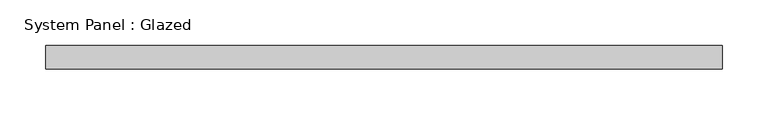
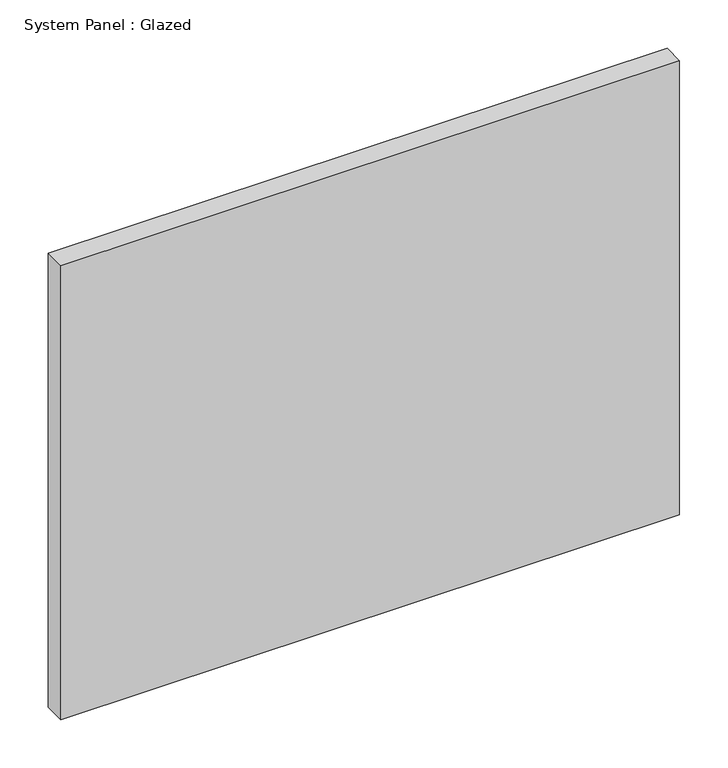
"""IFC4 building model written with IfcOpenShell, lengths in millimetres: plate geometry, System Panel : Glazed."""

import ifcopenshell
import ifcopenshell.guid

model = None  # the IFC model being written
_history = None  # IfcOwnerHistory: only IFC2X3 demands one
_inside = {}  # id of a spatial element -> (the spatial element, [elements in it])
_under = {}  # id of a project, library or spatial element -> (it, [spatial elements below it])
_declared = {}  # id of a project -> (the project, [libraries it declares])
_typed = {}  # id of a type object -> (the type object, [elements of that type])
_made_of = {}  # id of a material, layer set ... -> (it, [elements and type objects made of it])


def new_model(schema):
    """Start an empty IFC model of exactly this schema.

    Asked for "IFC4X3", IfcOpenShell would pick the latest addendum, in which some entities
    have other attributes; the version numbers below select the first issue.
    IFC2X3 requires an IfcOwnerHistory on every rooted entity: one is made here for all.
    """
    global model, _history
    if schema == "IFC4X3":
        model = ifcopenshell.file(schema_version=(4, 3, 0, 0))
    else:
        model = ifcopenshell.file(schema=schema)
    _inside.clear()
    _under.clear()
    _declared.clear()
    _typed.clear()
    _made_of.clear()
    _history = None
    if model.schema == "IFC2X3":
        org = make("IfcOrganization", Name="unknown")
        user = make(
            "IfcPersonAndOrganization",
            ThePerson=make("IfcPerson", FamilyName="unknown"),
            TheOrganization=org,
        )
        app = make(
            "IfcApplication",
            ApplicationDeveloper=org,
            Version="unknown",
            ApplicationFullName="unknown",
            ApplicationIdentifier="unknown",
        )
        _history = make(
            "IfcOwnerHistory",
            OwningUser=user,
            OwningApplication=app,
            ChangeAction="ADDED",
            CreationDate=0,
        )
    return model


def make(cls, **values):
    """One entity of the class cls with the attributes given. An attribute that is None is left unset."""
    return model.create_entity(
        cls, **{name: value for name, value in values.items() if value is not None}
    )


def rooted(cls, **values):
    """An entity with a GlobalId (a new one), such as an element, a storey or a relation."""
    return make(cls, GlobalId=ifcopenshell.guid.new(), OwnerHistory=_history, **values)


def si_unit(unit_type, name, prefix=None):
    """IfcSIUnit, for example si_unit("LENGTHUNIT", "METRE", prefix="MILLI")."""
    return make("IfcSIUnit", UnitType=unit_type, Prefix=prefix, Name=name)


def assignment(units):
    """IfcUnitAssignment: the units of a project."""
    return None if units is None else make("IfcUnitAssignment", Units=units)


def point(xyz):
    """IfcCartesianPoint."""
    return None if xyz is None else make("IfcCartesianPoint", Coordinates=xyz)


def direction(xyz):
    """IfcDirection."""
    return None if xyz is None else make("IfcDirection", DirectionRatios=xyz)


def frame(location, z_axis=None, x_axis=None):
    """IfcAxis2Placement3D, a coordinate frame: its origin and axes. An axis left out is left unset."""
    return make(
        "IfcAxis2Placement3D",
        Location=point(location),
        Axis=direction(z_axis),
        RefDirection=direction(x_axis),
    )


def origin():
    """The frame at (0, 0, 0) with its axes left unset."""
    return frame((0.0, 0.0, 0.0))


def origin_with_axes():
    """The frame at (0, 0, 0) with the z axis (0, 0, 1) and the x axis (1, 0, 0) written out."""
    return frame((0.0, 0.0, 0.0), z_axis=(0.0, 0.0, 1.0), x_axis=(1.0, 0.0, 0.0))


def place(relative_to, where):
    """IfcLocalPlacement: puts the frame where relative to a parent placement (None: the world)."""
    return make(
        "IfcLocalPlacement", PlacementRelTo=relative_to, RelativePlacement=where
    )


def context(
    kind, dimensions, precision=None, world=None, true_north=None, identifier=None
):
    """IfcGeometricRepresentationContext, for example the 3D "Model" context."""
    return make(
        "IfcGeometricRepresentationContext",
        ContextIdentifier=identifier,
        ContextType=kind,
        CoordinateSpaceDimension=dimensions,
        Precision=precision,
        WorldCoordinateSystem=world,
        TrueNorth=true_north,
    )


def project(units=None, contexts=None):
    """IfcProject with its units and contexts."""
    return rooted(
        "IfcProject",
        Name="project",
        RepresentationContexts=contexts,
        UnitsInContext=assignment(units),
    )


def spatial(cls, under=None, at=None, **own):
    """A site, building, storey or space (cls), placed at a placement, below another one or the project."""
    s = rooted(cls, ObjectPlacement=at, **own)
    if under is not None:
        _under.setdefault(under.id(), (under, []))[1].append(s)
    return s


def polyline(points):
    """IfcPolyline through the points."""
    return make("IfcPolyline", Points=[point(p) for p in points])


def outline(outer, holes=None, kind="AREA"):
    """IfcArbitraryClosedProfileDef: a profile drawn as a closed curve; with holes, ...WithVoids."""
    if holes is None:
        return make("IfcArbitraryClosedProfileDef", ProfileType=kind, OuterCurve=outer)
    return make(
        "IfcArbitraryProfileDefWithVoids",
        ProfileType=kind,
        OuterCurve=outer,
        InnerCurves=holes,
    )


def extrude(swept, where, along, depth):
    """IfcExtrudedAreaSolid: the profile swept, set in the frame where, extruded along a direction by depth."""
    return make(
        "IfcExtrudedAreaSolid",
        SweptArea=swept,
        Position=where,
        ExtrudedDirection=direction(along),
        Depth=depth,
    )


def shape(context_of_items, identifier, shape_type, items):
    """IfcShapeRepresentation: the items that make up one representation, for example the "Body"."""
    return make(
        "IfcShapeRepresentation",
        ContextOfItems=context_of_items,
        RepresentationIdentifier=identifier,
        RepresentationType=shape_type,
        Items=items,
    )


def source(mapping_origin, context_of_items, identifier, shape_type, items):
    """IfcRepresentationMap: a shape defined once, which mapped items show again and again."""
    return make(
        "IfcRepresentationMap",
        MappingOrigin=mapping_origin,
        MappedRepresentation=shape(context_of_items, identifier, shape_type, items),
    )


def transform(
    local_origin,
    x_axis=None,
    y_axis=None,
    z_axis=None,
    scale=None,
    scale2=None,
    scale3=None,
    uniform=True,
):
    """IfcCartesianTransformationOperator3D, or its non-uniform kind. x_axis, y_axis, z_axis: its Axis1, 2, 3."""
    if uniform:
        return make(
            "IfcCartesianTransformationOperator3D",
            Axis1=direction(x_axis),
            Axis2=direction(y_axis),
            LocalOrigin=point(local_origin),
            Scale=scale,
            Axis3=direction(z_axis),
        )
    return make(
        "IfcCartesianTransformationOperator3DnonUniform",
        Axis1=direction(x_axis),
        Axis2=direction(y_axis),
        LocalOrigin=point(local_origin),
        Scale=scale,
        Axis3=direction(z_axis),
        Scale2=scale2,
        Scale3=scale3,
    )


def mapped(mapping_source, mapping_target):
    """IfcMappedItem: shows the shape of a source again, moved by a transform."""
    return make(
        "IfcMappedItem", MappingSource=mapping_source, MappingTarget=mapping_target
    )


def made_of(thing, what):
    """Note that an element or type object is made of a material, layer set ...; save() writes the relation."""
    if what is not None:
        _made_of.setdefault(what.id(), (what, []))[1].append(thing)
    return thing


def element(
    cls,
    number,
    at=None,
    inside=None,
    cuts=None,
    type_object=None,
    material=None,
    context=None,
    identifier="Body",
    shape_type=None,
    held_by="IfcProductDefinitionShape",
    body=None,
    shapes=None,
    **own,
):
    """One element of the class cls, such as IfcWall. Its Tag is "e" and its number.

    at: its placement. inside: the storey or other place that contains it. cuts: it is an
    opening in that element (IfcRelVoidsElement). A single representation is given by context,
    identifier, shape_type and body (its items); several are given by shapes. held_by: the class
    of the entity that holds the representations. save() writes the other relations.
    """
    e = rooted(cls, Tag="e%d" % number, ObjectPlacement=at, **own)
    if body is not None:
        shapes = [shape(context, identifier, shape_type, body)]
    if shapes is not None:
        e.Representation = make(held_by, Representations=shapes)
    if inside is not None:
        _inside.setdefault(inside.id(), (inside, []))[1].append(e)
    if cuts is not None:
        rooted(
            "IfcRelVoidsElement", RelatingBuildingElement=cuts, RelatedOpeningElement=e
        )
    if type_object is not None:
        _typed.setdefault(type_object.id(), (type_object, []))[1].append(e)
    return made_of(e, material)


def aggregate(whole, parts):
    """IfcRelAggregates: a whole, such as a stair, and the parts it consists of."""
    return rooted("IfcRelAggregates", RelatingObject=whole, RelatedObjects=parts)


def save(model, path):
    """Write the relations noted so far, then the file.

    IfcRelAggregates (storeys below a building ...), IfcRelContainedInSpatialStructure (elements
    in a storey), IfcRelDefinesByType, IfcRelAssociatesMaterial and IfcRelDeclares: one each for
    every whole, place, type object, material and project.
    """
    for whole, parts in _under.values():
        aggregate(whole, parts)
    for where, things in _inside.values():
        rooted(
            "IfcRelContainedInSpatialStructure",
            RelatedElements=things,
            RelatingStructure=where,
        )
    for kind, things in _typed.values():
        rooted("IfcRelDefinesByType", RelatedObjects=things, RelatingType=kind)
    for what, things in _made_of.values():
        rooted("IfcRelAssociatesMaterial", RelatedObjects=things, RelatingMaterial=what)
    for by, libraries in _declared.values():
        rooted("IfcRelDeclares", RelatingContext=by, RelatedDefinitions=libraries)
    model.write(path)


def system_panel_glazed_80c160bc(model_context):
    return source(origin(), model_context, "Body", "SweptSolid", [
        extrude(outline(polyline([(368.2999999, 19.05), (-368.2999999, 19.05), (-368.2999999, 44.45), (368.2999999, 44.45), (368.2999999, 19.05)])), origin_with_axes(), (0.0, 0.0, 1.0), 571.5),
    ])


if __name__ == "__main__":
    model = new_model("IFC4")
    model_context = context("Model", 3, world=origin())
    ifc_project = project(units=[si_unit("LENGTHUNIT", "METRE", prefix="MILLI")], contexts=[model_context])
    site = spatial("IfcSite", under=ifc_project)
    building = spatial("IfcBuilding", under=site)
    placement = place(None, origin())
    system_panel_glazed_shape = system_panel_glazed_80c160bc(model_context)
    element("IfcPlate", 1, ObjectType="System Panel : Glazed", at=placement, inside=building, context=model_context, shape_type="MappedRepresentation", body=[
        mapped(system_panel_glazed_shape, transform((0.0, 0.0, 0.0), x_axis=(1.0, 0.0, 0.0), y_axis=(0.0, 1.0, 0.0), z_axis=(0.0, 0.0, 1.0))),
    ])
    save(model, "model.ifc")
